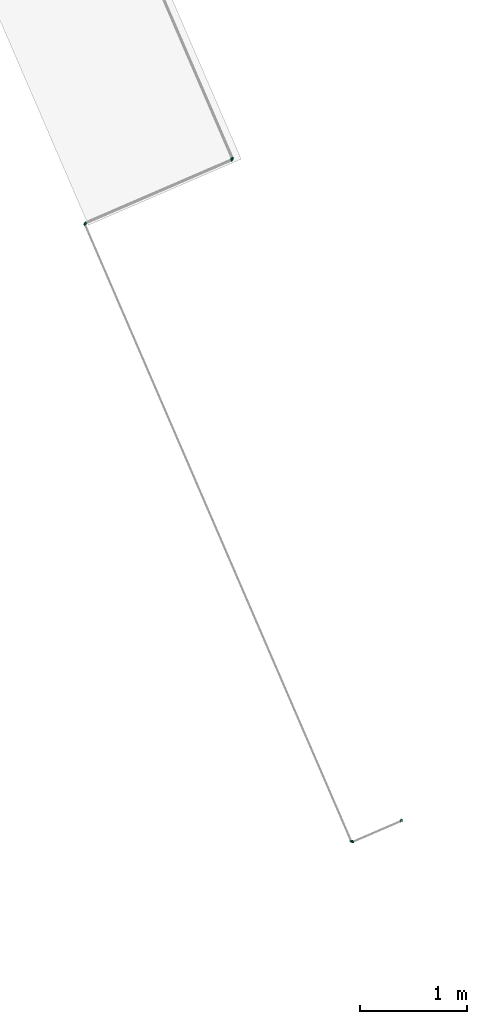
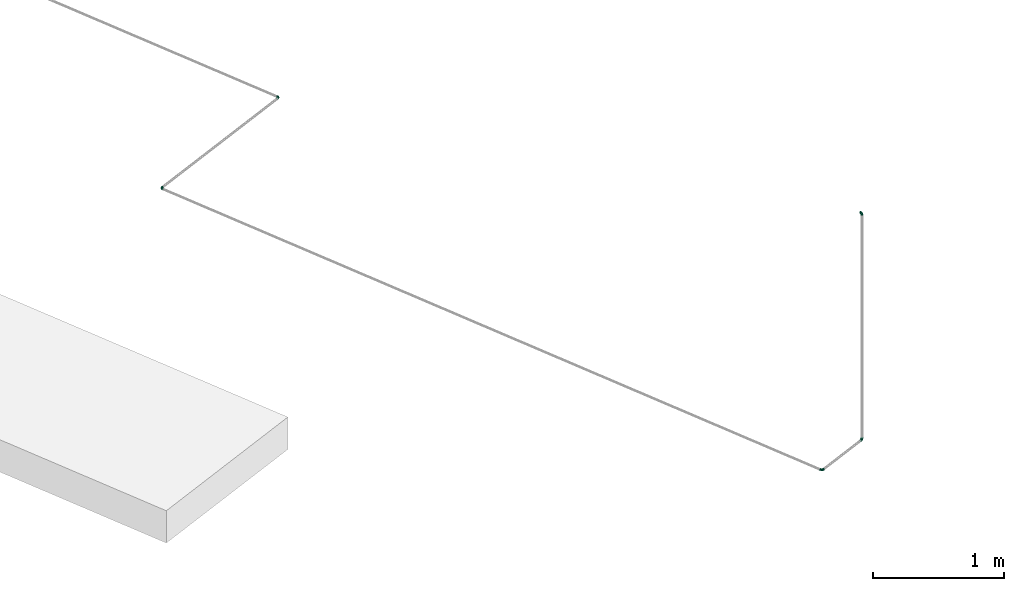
# One storey, part 20 of 26: 5 pipe fittings.
"""IFC4 building model written with IfcOpenShell, lengths in metres."""

import ifcopenshell
import ifcopenshell.guid

model = None  # the IFC model being written
_history = None  # IfcOwnerHistory: only IFC2X3 demands one
_inside = {}  # id of a spatial element -> (the spatial element, [elements in it])
_under = {}  # id of a project, library or spatial element -> (it, [spatial elements below it])
_declared = {}  # id of a project -> (the project, [libraries it declares])
_typed = {}  # id of a type object -> (the type object, [elements of that type])
_made_of = {}  # id of a material, layer set ... -> (it, [elements and type objects made of it])


def new_model(schema):
    """Start an empty IFC model of exactly this schema.

    Asked for "IFC4X3", IfcOpenShell would pick the latest addendum, in which some entities
    have other attributes; the version numbers below select the first issue.
    IFC2X3 requires an IfcOwnerHistory on every rooted entity: one is made here for all.
    """
    global model, _history
    if schema == "IFC4X3":
        model = ifcopenshell.file(schema_version=(4, 3, 0, 0))
    else:
        model = ifcopenshell.file(schema=schema)
    _inside.clear()
    _under.clear()
    _declared.clear()
    _typed.clear()
    _made_of.clear()
    _history = None
    if model.schema == "IFC2X3":
        org = make("IfcOrganization", Name="unknown")
        user = make(
            "IfcPersonAndOrganization",
            ThePerson=make("IfcPerson", FamilyName="unknown"),
            TheOrganization=org,
        )
        app = make(
            "IfcApplication",
            ApplicationDeveloper=org,
            Version="unknown",
            ApplicationFullName="unknown",
            ApplicationIdentifier="unknown",
        )
        _history = make(
            "IfcOwnerHistory",
            OwningUser=user,
            OwningApplication=app,
            ChangeAction="ADDED",
            CreationDate=0,
        )
    return model


def make(cls, **values):
    """One entity of the class cls with the attributes given. An attribute that is None is left unset."""
    return model.create_entity(
        cls, **{name: value for name, value in values.items() if value is not None}
    )


def entity(cls, *values):
    """Any entity or typed value of the class cls, its attributes in the order of the schema. None: left unset."""
    e = model.create_entity(cls)
    for i, value in enumerate(values):
        if value is not None:
            e[i] = value
    return e


def rooted(cls, **values):
    """An entity with a GlobalId (a new one), such as an element, a storey or a relation."""
    return make(cls, GlobalId=ifcopenshell.guid.new(), OwnerHistory=_history, **values)


def si_unit(unit_type, name, prefix=None):
    """IfcSIUnit, for example si_unit("LENGTHUNIT", "METRE", prefix="MILLI")."""
    return make("IfcSIUnit", UnitType=unit_type, Prefix=prefix, Name=name)


def converted_unit(unit_type, name, factor, base, dimensions=None, offset=None):
    """IfcConversionBasedUnit, such as the inch: factor (a typed value) times the base unit."""
    return make(
        "IfcConversionBasedUnit"
        if offset is None
        else "IfcConversionBasedUnitWithOffset",
        ConversionOffset=offset,
        Dimensions=None
        if dimensions is None
        else entity("IfcDimensionalExponents", *dimensions),
        UnitType=unit_type,
        Name=name,
        ConversionFactor=make(
            "IfcMeasureWithUnit", ValueComponent=factor, UnitComponent=base
        ),
    )


def derived_unit(unit_type, elements):
    """IfcDerivedUnit: a product of units, each with its exponent."""
    return make(
        "IfcDerivedUnit",
        Elements=[
            make("IfcDerivedUnitElement", Unit=unit, Exponent=power)
            for unit, power in elements
        ],
        UnitType=unit_type,
    )


def assignment(units):
    """IfcUnitAssignment: the units of a project."""
    return None if units is None else make("IfcUnitAssignment", Units=units)


def point(xyz):
    """IfcCartesianPoint."""
    return None if xyz is None else make("IfcCartesianPoint", Coordinates=xyz)


def direction(xyz):
    """IfcDirection."""
    return None if xyz is None else make("IfcDirection", DirectionRatios=xyz)


def frame(location, z_axis=None, x_axis=None):
    """IfcAxis2Placement3D, a coordinate frame: its origin and axes. An axis left out is left unset."""
    return make(
        "IfcAxis2Placement3D",
        Location=point(location),
        Axis=direction(z_axis),
        RefDirection=direction(x_axis),
    )


def origin():
    """The frame at (0, 0, 0) with its axes left unset."""
    return frame((0.0, 0.0, 0.0))


def place(relative_to, where):
    """IfcLocalPlacement: puts the frame where relative to a parent placement (None: the world)."""
    return make(
        "IfcLocalPlacement", PlacementRelTo=relative_to, RelativePlacement=where
    )


def context(
    kind, dimensions, precision=None, world=None, true_north=None, identifier=None
):
    """IfcGeometricRepresentationContext, for example the 3D "Model" context."""
    return make(
        "IfcGeometricRepresentationContext",
        ContextIdentifier=identifier,
        ContextType=kind,
        CoordinateSpaceDimension=dimensions,
        Precision=precision,
        WorldCoordinateSystem=world,
        TrueNorth=true_north,
    )


def subcontext(parent, identifier, kind, view, scale=None):
    """IfcGeometricRepresentationSubContext, for example "Body" below "Model"."""
    return make(
        "IfcGeometricRepresentationSubContext",
        ContextIdentifier=identifier,
        ContextType=kind,
        ParentContext=parent,
        TargetScale=scale,
        TargetView=view,
    )


def project(units=None, contexts=None):
    """IfcProject with its units and contexts."""
    return rooted(
        "IfcProject",
        Name="project",
        RepresentationContexts=contexts,
        UnitsInContext=assignment(units),
    )


def spatial(cls, under=None, at=None, **own):
    """A site, building, storey or space (cls), placed at a placement, below another one or the project."""
    s = rooted(cls, ObjectPlacement=at, **own)
    if under is not None:
        _under.setdefault(under.id(), (under, []))[1].append(s)
    return s


def point_list(points):
    """IfcCartesianPointList2D or 3D."""
    cls = (
        "IfcCartesianPointList2D" if len(points[0]) == 2 else "IfcCartesianPointList3D"
    )
    return make(cls, CoordList=points)


def polygons(points, faces, closed=None, point_numbers=None):
    """IfcPolygonalFaceSet: a face is its outer loop, then its inner loops; points numbered from 1."""
    made = []
    for loops in faces:
        if len(loops) == 1:
            made.append(make("IfcIndexedPolygonalFace", CoordIndex=loops[0]))
        else:
            made.append(
                make(
                    "IfcIndexedPolygonalFaceWithVoids",
                    CoordIndex=loops[0],
                    InnerCoordIndices=loops[1:],
                )
            )
    return make(
        "IfcPolygonalFaceSet",
        Coordinates=point_list(points),
        Closed=closed,
        Faces=made,
        PnIndex=point_numbers,
    )


def shape(context_of_items, identifier, shape_type, items):
    """IfcShapeRepresentation: the items that make up one representation, for example the "Body"."""
    return make(
        "IfcShapeRepresentation",
        ContextOfItems=context_of_items,
        RepresentationIdentifier=identifier,
        RepresentationType=shape_type,
        Items=items,
    )


def source(mapping_origin, context_of_items, identifier, shape_type, items):
    """IfcRepresentationMap: a shape defined once, which mapped items show again and again."""
    return make(
        "IfcRepresentationMap",
        MappingOrigin=mapping_origin,
        MappedRepresentation=shape(context_of_items, identifier, shape_type, items),
    )


def transform(
    local_origin,
    x_axis=None,
    y_axis=None,
    z_axis=None,
    scale=None,
    scale2=None,
    scale3=None,
    uniform=True,
):
    """IfcCartesianTransformationOperator3D, or its non-uniform kind. x_axis, y_axis, z_axis: its Axis1, 2, 3."""
    if uniform:
        return make(
            "IfcCartesianTransformationOperator3D",
            Axis1=direction(x_axis),
            Axis2=direction(y_axis),
            LocalOrigin=point(local_origin),
            Scale=scale,
            Axis3=direction(z_axis),
        )
    return make(
        "IfcCartesianTransformationOperator3DnonUniform",
        Axis1=direction(x_axis),
        Axis2=direction(y_axis),
        LocalOrigin=point(local_origin),
        Scale=scale,
        Axis3=direction(z_axis),
        Scale2=scale2,
        Scale3=scale3,
    )


def mapped(mapping_source, mapping_target):
    """IfcMappedItem: shows the shape of a source again, moved by a transform."""
    return make(
        "IfcMappedItem", MappingSource=mapping_source, MappingTarget=mapping_target
    )


def material(Name=None, Category=None):
    """IfcMaterial."""
    return make("IfcMaterial", Name=Name, Category=Category)


def made_of(thing, what):
    """Note that an element or type object is made of a material, layer set ...; save() writes the relation."""
    if what is not None:
        _made_of.setdefault(what.id(), (what, []))[1].append(thing)
    return thing


def type_object(cls, material=None, **own):
    """A type object (cls), such as IfcWallType, which elements share."""
    return made_of(rooted(cls, **own), material)


def type_shapes(of_type, sources):
    """Give a type object the sources (RepresentationMaps) that its elements show as mapped items."""
    of_type.RepresentationMaps = sources


def element(
    cls,
    number,
    at=None,
    inside=None,
    cuts=None,
    type_object=None,
    material=None,
    context=None,
    identifier="Body",
    shape_type=None,
    held_by="IfcProductDefinitionShape",
    body=None,
    shapes=None,
    **own,
):
    """One element of the class cls, such as IfcWall. Its Tag is "e" and its number.

    at: its placement. inside: the storey or other place that contains it. cuts: it is an
    opening in that element (IfcRelVoidsElement). A single representation is given by context,
    identifier, shape_type and body (its items); several are given by shapes. held_by: the class
    of the entity that holds the representations. save() writes the other relations.
    """
    e = rooted(cls, Tag="e%d" % number, ObjectPlacement=at, **own)
    if body is not None:
        shapes = [shape(context, identifier, shape_type, body)]
    if shapes is not None:
        e.Representation = make(held_by, Representations=shapes)
    if inside is not None:
        _inside.setdefault(inside.id(), (inside, []))[1].append(e)
    if cuts is not None:
        rooted(
            "IfcRelVoidsElement", RelatingBuildingElement=cuts, RelatedOpeningElement=e
        )
    if type_object is not None:
        _typed.setdefault(type_object.id(), (type_object, []))[1].append(e)
    return made_of(e, material)


def aggregate(whole, parts):
    """IfcRelAggregates: a whole, such as a stair, and the parts it consists of."""
    return rooted("IfcRelAggregates", RelatingObject=whole, RelatedObjects=parts)


def save(model, path):
    """Write the relations noted so far, then the file.

    IfcRelAggregates (storeys below a building ...), IfcRelContainedInSpatialStructure (elements
    in a storey), IfcRelDefinesByType, IfcRelAssociatesMaterial and IfcRelDeclares: one each for
    every whole, place, type object, material and project.
    """
    for whole, parts in _under.values():
        aggregate(whole, parts)
    for where, things in _inside.values():
        rooted(
            "IfcRelContainedInSpatialStructure",
            RelatedElements=things,
            RelatingStructure=where,
        )
    for kind, things in _typed.values():
        rooted("IfcRelDefinesByType", RelatedObjects=things, RelatingType=kind)
    for what, things in _made_of.values():
        rooted("IfcRelAssociatesMaterial", RelatedObjects=things, RelatingMaterial=what)
    for by, libraries in _declared.values():
        rooted("IfcRelDeclares", RelatingContext=by, RelatedDefinitions=libraries)
    model.write(path)


model = new_model("IFC4")

# Units and contexts
model_context = context("Model", 3, precision=1e-05, world=origin(), true_north=direction((6.12323399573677e-17, 1.0)))
body_context = subcontext(model_context, "Body", "Model", "MODEL_VIEW")
ifc_project = project(units=[si_unit("LENGTHUNIT", "METRE"), si_unit("AREAUNIT", "SQUARE_METRE"), si_unit("VOLUMEUNIT", "CUBIC_METRE"), si_unit("PRESSUREUNIT", "PASCAL"), derived_unit("VOLUMETRICFLOWRATEUNIT", [(si_unit("LENGTHUNIT", "METRE", prefix="DECI"), 3), (si_unit("TIMEUNIT", "SECOND"), -1)]), converted_unit("PLANEANGLEUNIT", "DEGREE", entity("IfcPlaneAngleMeasure", 0.0174532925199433), si_unit("PLANEANGLEUNIT", "RADIAN"), dimensions=[0, 0, 0, 0, 0, 0, 0])], contexts=[model_context])

# Site, building, storey
site_placement = place(None, origin())
site = spatial("IfcSite", under=ifc_project, at=site_placement, Name="Default", CompositionType="ELEMENT")
building_placement = place(site_placement, frame((24.575451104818, -55.896759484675, 317.15), z_axis=(0.0, 0.0, 1.0), x_axis=(-0.396377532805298, 0.918087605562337, 0.0)))
building = spatial("IfcBuilding", under=site, at=building_placement, CompositionType="ELEMENT")
storey_placement = place(building_placement, origin())
storey = spatial("IfcBuildingStorey", under=building, at=storey_placement, Name="Nivel 1", CompositionType="ELEMENT", Elevation=0.0)

# Pipe fittings
ifc_material = material(Name="<Unnamed>")
pipe_fitting_type = type_object("IfcPipeFittingType", Name="M_Codo - Genérico:Norma", PredefinedType="NOTDEFINED", material=ifc_material)
shared_shape = source(origin(), body_context, "Body", "Tessellation", [
    polygons([(-0.0174624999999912, -0.0111125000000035, -1.903728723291e-15), (-0.0174624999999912, -0.0107338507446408, 0.00287612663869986), (-0.0174624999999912, -0.0096237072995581, 0.0055562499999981), (-0.0174624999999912, -0.00785772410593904, 0.00785772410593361), (-0.0174624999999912, -0.00555625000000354, 0.00962370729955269), (-0.0174624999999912, -0.00287612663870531, 0.0107338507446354), (-0.0174624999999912, -3.55315776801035e-15, 0.0111124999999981), (-0.0174624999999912, 0.00287612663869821, 0.0107338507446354), (-0.0174624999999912, 0.00555624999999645, 0.00962370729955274), (-0.0174624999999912, 0.00785772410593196, 0.00785772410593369), (-0.0174624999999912, 0.00962370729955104, 0.00555624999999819), (-0.0174624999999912, 0.0107338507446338, 0.00287612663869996), (-0.0174624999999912, 0.0111124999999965, -1.86782324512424e-15), (-0.0174624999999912, 0.0107338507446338, -0.00287612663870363), (-0.0174624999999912, 0.00962370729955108, -0.00555625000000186), (-0.0174624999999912, 0.00785772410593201, -0.00785772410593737), (-0.0174624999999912, 0.00555624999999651, -0.00962370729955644), (-0.0174624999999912, 0.00287612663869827, -0.0107338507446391), (-0.0174624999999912, -3.48759354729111e-15, -0.0111125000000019), (-0.0174624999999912, -0.00287612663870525, -0.0107338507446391), (-0.0174624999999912, -0.00555625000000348, -0.00962370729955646), (-0.0174624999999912, -0.00785772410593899, -0.0078577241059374), (-0.0174624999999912, -0.00962370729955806, -0.00555625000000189), (-0.0174624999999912, -0.0107338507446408, -0.00287612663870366), (0.0111125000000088, 0.0174624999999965, -1.89879378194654e-15), (0.010733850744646, 0.0174624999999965, -0.00287612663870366), (0.00962370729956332, 0.0174624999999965, -0.00555625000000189), (0.00785772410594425, 0.0174624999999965, -0.0078577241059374), (0.00555625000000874, 0.0174624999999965, -0.00962370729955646), (0.0028761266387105, 0.0174624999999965, -0.0107338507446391), (8.74542105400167e-15, 0.0174624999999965, -0.0111125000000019), (-0.00287612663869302, 0.0174624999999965, -0.0107338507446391), (-0.00555624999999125, 0.0174624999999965, -0.00962370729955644), (-0.00785772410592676, 0.0174624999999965, -0.00785772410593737), (-0.00962370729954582, 0.0174624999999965, -0.00555625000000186), (-0.0107338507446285, 0.0174624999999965, -0.00287612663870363), (-0.0111124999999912, 0.0174624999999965, -1.80588217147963e-15), (-0.0107338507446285, 0.0174624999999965, 0.00287612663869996), (-0.00962370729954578, 0.0174624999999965, 0.00555624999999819), (-0.00785772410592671, 0.0174624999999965, 0.00785772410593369), (-0.00555624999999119, 0.0174624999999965, 0.00962370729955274), (-0.00287612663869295, 0.0174624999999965, 0.0107338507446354), (8.81098527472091e-15, 0.0174624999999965, 0.0111124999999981), (0.00287612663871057, 0.0174624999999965, 0.0107338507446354), (0.0055562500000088, 0.0174624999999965, 0.00962370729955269), (0.0078577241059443, 0.0174624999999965, 0.00785772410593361), (0.00962370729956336, 0.0174624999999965, 0.0055562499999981), (0.010733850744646, 0.0174624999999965, 0.00287612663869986), (-0.0129723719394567, 0.0129723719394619, -1.79601228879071e-15), (-0.00317499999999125, -0.00728417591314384, -1.903728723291e-15), (0.00728417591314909, 0.00317499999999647, -1.903728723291e-15), (-0.0100511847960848, -0.00912664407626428, -1.903728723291e-15), (0.00912664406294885, 0.0100511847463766, -1.903728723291e-15), (-0.013756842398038, -0.0101195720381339, -1.903728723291e-15), (0.0101195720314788, 0.0137568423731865, -1.903728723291e-15), (-0.0156096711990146, -0.0106160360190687, -1.903728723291e-15), (0.0106160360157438, 0.0156096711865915, -1.903728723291e-15), (0.00205458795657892, -0.00205458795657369, -1.903728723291e-15), (-0.00555538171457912, 0.00884629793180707, 0.0107630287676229), (-0.00691389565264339, 0.00169494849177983, 0.011009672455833), (0.00190822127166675, 0.00896555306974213, 0.0104820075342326), (-0.00661309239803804, -0.00820540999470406, -1.903728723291e-15), (-0.00947063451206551, -0.00404538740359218, 0.00966608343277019), (0.00557118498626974, 0.0106586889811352, 0.00897323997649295), (-0.0129388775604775, 0.00860307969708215, 0.00818609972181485), (-0.00836753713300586, 0.00728984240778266, 0.0104364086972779), (-0.00044279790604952, 0.00110833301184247, 0.00926146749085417), (0.004669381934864, 0.00056020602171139, -1.903728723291e-15), (0.00194294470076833, 0.00415442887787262, 0.00930962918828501), (-0.000560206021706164, -0.00466938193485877, -1.903728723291e-15), (0.00820540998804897, 0.00661309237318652, -1.903728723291e-15), (-0.0055553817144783, 0.00884629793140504, -0.0107630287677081), (-0.00691389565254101, 0.00169494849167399, -0.0110096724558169), (0.0019082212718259, 0.00896555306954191, -0.0104820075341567), (-0.00947063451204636, -0.00404538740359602, -0.0096660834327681), (0.00557118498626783, 0.0106586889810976, -0.00897323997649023), (-0.012938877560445, 0.00860307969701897, -0.00818609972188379), (-0.00836753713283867, 0.00728984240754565, -0.010436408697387), (-0.000442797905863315, 0.00110833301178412, -0.00926146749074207), (0.00194294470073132, 0.00415442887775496, -0.00930962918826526)], [[[17, 18, 19, 20, 21, 22, 23, 24, 1, 2, 3, 4, 5, 6, 7, 8, 9, 10, 11, 12, 13, 14, 15, 16]], [[31, 32, 33, 34, 35, 36, 37, 38, 39, 40, 41, 42, 43, 44, 45, 46, 47, 48, 25, 26, 27, 28, 29, 30]], [[2, 56, 3]], [[6, 62, 7]], [[67, 69, 59]], [[39, 61, 40]], [[52, 5, 4]], [[3, 54, 4]], [[10, 63, 60]], [[5, 52, 6]], [[62, 50, 63]], [[63, 9, 8]], [[59, 66, 67]], [[6, 52, 62]], [[62, 63, 7]], [[63, 8, 7]], [[66, 65, 60]], [[44, 64, 53]], [[13, 12, 65]], [[64, 51, 71, 53]], [[2, 1, 56]], [[66, 49, 65]], [[63, 10, 9]], [[60, 50, 70]], [[49, 13, 65]], [[60, 70, 67]], [[51, 64, 61]], [[43, 64, 44]], [[53, 45, 44]], [[61, 69, 51]], [[42, 64, 43]], [[50, 60, 63]], [[55, 46, 53]], [[67, 70, 58, 68]], [[53, 46, 45]], [[51, 69, 68]], [[48, 57, 25]], [[11, 60, 65]], [[69, 61, 59]], [[52, 4, 54]], [[38, 37, 59]], [[67, 68, 69]], [[49, 59, 37]], [[55, 47, 46]], [[38, 59, 39]], [[47, 57, 48]], [[61, 41, 40]], [[56, 54, 3]], [[39, 59, 61]], [[55, 57, 47]], [[61, 64, 41]], [[41, 64, 42]], [[60, 11, 10]], [[60, 67, 66]], [[11, 65, 12]], [[49, 66, 59]], [[62, 19, 75]], [[68, 80, 51]], [[79, 78, 72]], [[73, 75, 16]], [[77, 78, 73]], [[35, 34, 74]], [[73, 16, 15]], [[58, 70, 79, 68]], [[14, 13, 77]], [[78, 49, 72]], [[49, 78, 77]], [[77, 73, 15]], [[56, 1, 24]], [[79, 70, 73]], [[22, 52, 54]], [[20, 19, 62]], [[72, 74, 80]], [[52, 22, 21]], [[21, 20, 52]], [[16, 75, 17]], [[68, 79, 80]], [[52, 20, 62]], [[72, 49, 37]], [[50, 73, 70]], [[37, 36, 72]], [[73, 78, 79]], [[53, 28, 55]], [[35, 72, 36]], [[51, 80, 74]], [[54, 23, 22]], [[76, 33, 32]], [[57, 55, 27]], [[54, 56, 23]], [[33, 74, 34]], [[23, 56, 24]], [[31, 76, 32]], [[53, 76, 30]], [[15, 14, 77]], [[29, 28, 53]], [[53, 30, 29]], [[30, 76, 31]], [[76, 74, 33]], [[27, 26, 57]], [[75, 19, 18]], [[51, 74, 76]], [[35, 74, 72]], [[18, 17, 75]], [[27, 55, 28]], [[50, 75, 73]], [[26, 25, 57]], [[76, 53, 71, 51]], [[75, 50, 62]], [[13, 49, 77]], [[80, 79, 72]]], closed=True),
])
type_shapes(pipe_fitting_type, [shared_shape])
for number, where, z_axis, x_axis in (
    (1, (15.4900000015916, 37.6988315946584, 3.0), (0.0, 0.0, 1.0), (0.0, -1.0, 0.0)),
    (2, (15.4900000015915, 39.2016234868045, 3.0), (0.0, 0.0, 1.0), (0.0, 1.0, 0.0)),
    (3, (9.21853904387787, 38.6931002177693, 5.10550000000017), (0.0, 1.0, 0.0), (0.0, 0.0, 1.0)),
    (4, (9.21853904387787, 39.2016234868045, 3.0), (0.0, 0.0, 1.0), (-1.0, 0.0, 0.0)),
    (5, (9.21853904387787, 38.6931002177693, 3.0), (1.0, 0.0, 0.0), (0.0, 0.0, -1.0)),
):
    element("IfcPipeFitting", number, at=place(storey_placement, frame(where, z_axis=z_axis, x_axis=x_axis)), inside=storey, type_object=pipe_fitting_type, material=ifc_material, Name="M_Codo - Genérico:Norma", ObjectType="M_Codo - Genérico:Norma", PredefinedType="NOTDEFINED", context=body_context, shape_type="MappedRepresentation", body=[
        mapped(shared_shape, transform((0.0, 0.0, 0.0), scale=1.0)),
    ])

save(model, "model.ifc")
